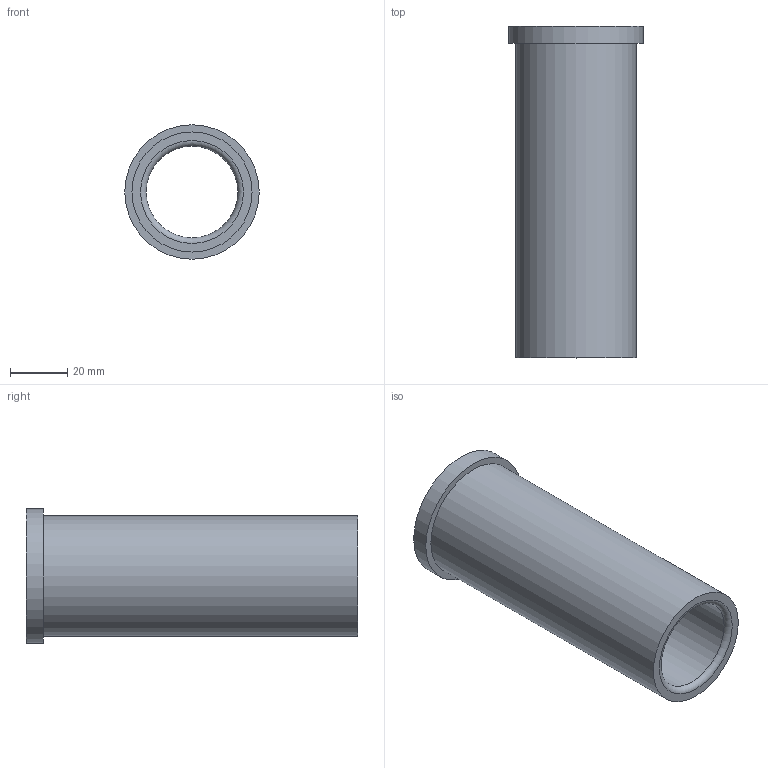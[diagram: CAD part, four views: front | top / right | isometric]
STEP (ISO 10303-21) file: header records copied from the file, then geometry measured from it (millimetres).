
FILE_DESCRIPTION(/* description */ ('STEP AP214'),/* implementation_level */ '2;1');
FILE_NAME(/* name */ '03_12_17860',/* time_stamp */ '2023-06-15T11:35:42+02:00',/* author */ ('License CC BY-ND 4.0'),/* organization */ ('CADENAS'),/* preprocessor_version */ 'ST-DEVELOPER v19.3',/* originating_system */ 'PARTsolutions',/* authorisation */ ' ');
FILE_SCHEMA (('AUTOMOTIVE_DESIGN {1 0 10303 214 3 1 1}'));
Length unit declared in the file: millimetre
Products named in the file (1): VA_Bushing_17860
Bounding box: 47 x 116 x 47 mm (x, y, z)
Volume: 68630.3 mm3; surface area: 28796.2 mm2
Topology: 1 solids, 1 shells, 10 faces, 16 edges, 10 vertices
Faces by surface type: cylinder 4, plane 4, torus 2
Full cylindrical faces by diameter (mm): 32 x1, 32.6 x1, 42 x1, 47 x1
Entity records: 302 total; most frequent: DIRECTION 42, CARTESIAN_POINT 31, AXIS2_PLACEMENT_3D 21, ORIENTED_EDGE 20, EDGE_LOOP 20, FACE_BOUND 20, EDGE_CURVE 10, VERTEX_POINT 10
